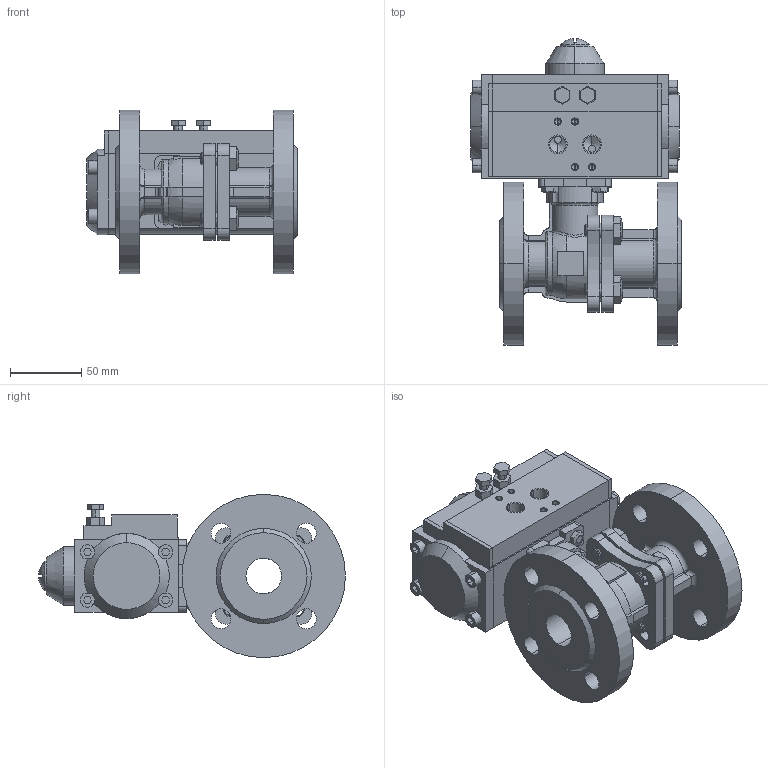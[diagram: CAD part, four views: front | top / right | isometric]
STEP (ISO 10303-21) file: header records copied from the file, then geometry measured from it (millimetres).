
FILE_DESCRIPTION((''),'2;1');
FILE_NAME('BV-22F_RPA_ASM','2024-09-11T',('USER'),(''),'PRO/ENGINEER BY PARAMETRIC TECHNOLOGY CORPORATION, 2011220','PRO/ENGINEER BY PARAMETRIC TECHNOLOGY CORPORATION, 2011220','');
FILE_SCHEMA(('CONFIG_CONTROL_DESIGN'));
Length unit declared in the file: millimetre
Products named in the file (12): KORPUS_KRAN_FL; B-7798-M10-20; SB_KRAN_FL_ASM; KORPUS_PNEVMOPRIVOD; KOLCO_14_GOST13942; KRISKA_VERX; VINT; KRISKA_LEFT; KRISKA_RIGHT; SB_PNEVMOPRIVOD_ASM; B-7798-M6-14; BV-22F_RPA_ASM
Assembly tree (17 placements, depth 3):
  BV-22F_RPA_ASM
    SB_KRAN_FL_ASM
      KORPUS_KRAN_FL
      B-7798-M10-20  x4
    SB_PNEVMOPRIVOD_ASM
      KORPUS_PNEVMOPRIVOD
      KOLCO_14_GOST13942
      KRISKA_VERX
      VINT
      KRISKA_LEFT
      KRISKA_RIGHT
    B-7798-M6-14  x4
Bounding box: 148.5 x 215.93 x 115 mm (x, y, z)
Volume: 1122613.6 mm3; surface area: 195690.5 mm2
Topology: 15 solids, 49 shells, 812 faces, 2062 edges, 1319 vertices
Faces by surface type: plane 396, cylinder 292, cone 82, torus 23, bspline 14, extrusion 3, sphere 2
Entity records: 22748 total; most frequent: CARTESIAN_POINT 5084, DIRECTION 3789, ORIENTED_EDGE 3428, EDGE_CURVE 1772, AXIS2_PLACEMENT_3D 1377, VERTEX_POINT 1163, VECTOR 1035, LINE 1032
